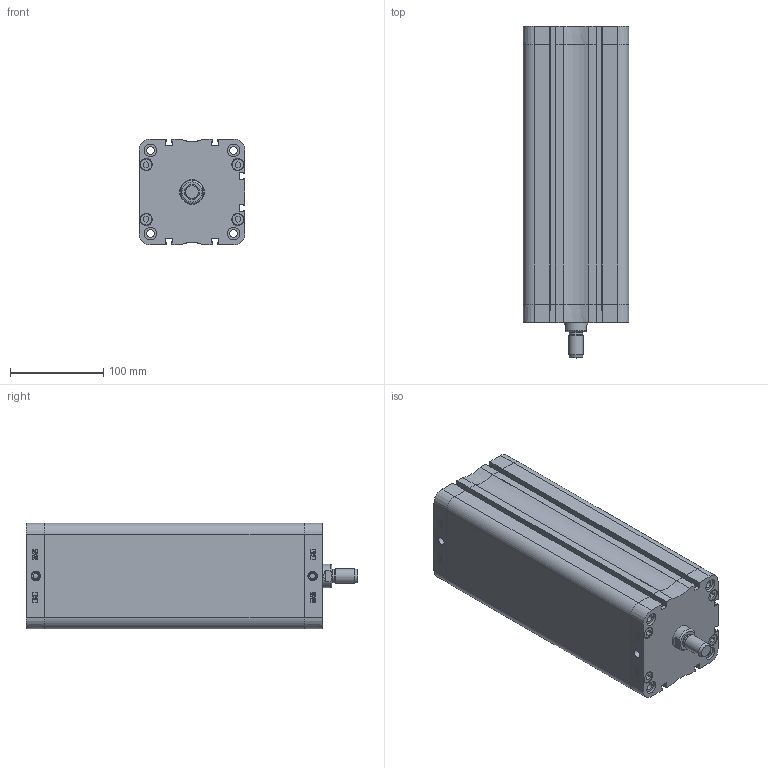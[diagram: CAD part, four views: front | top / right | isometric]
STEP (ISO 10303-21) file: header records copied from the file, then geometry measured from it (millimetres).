
FILE_DESCRIPTION((''),'2;1');
FILE_NAME('T:\Archivio Inventor\- CATALOGHI 2012\SERIE P - NUOVA\PDM\PDM100\PDM100.---.GS.M\PDM100.250.GS.M.stp','2013-02-05T11:45:39',('Administrator'),(''),'Autodesk Inventor 2012','Autodesk Inventor 2012','');
FILE_SCHEMA(('CONFIG_CONTROL_DESIGN'));
Length unit declared in the file: millimetre
Products named in the file (1): PDM100.250.GS.M
Bounding box: 113.3 x 355 x 113.3 mm (x, y, z)
Volume: 1340428.5 mm3; surface area: 404469.9 mm2
Topology: 1 solids, 5 shells, 908 faces, 2136 edges, 1312 vertices
Faces by surface type: plane 371, bspline 226, cylinder 148, cone 81, torus 58, sphere 24
Full cylindrical faces by diameter (mm): 6 x2, 8.3 x4, 8.376 x8, 8.566 x2, 9.976 x4, 12 x1, 12.7 x8, 13.1 x8, 13.5 x8, 14 x1, 16 x1, 25 x1, 25.5 x1, 100 x1, 103.5 x1, 103.7 x1
Entity records: 29561 total; most frequent: CARTESIAN_POINT 9693, ORIENTED_EDGE 4030, DIRECTION 3400, EDGE_CURVE 2015, VERTEX_POINT 1291, AXIS2_PLACEMENT_3D 1208, EDGE_LOOP 1088, VECTOR 984
